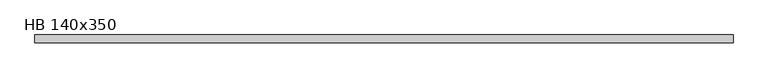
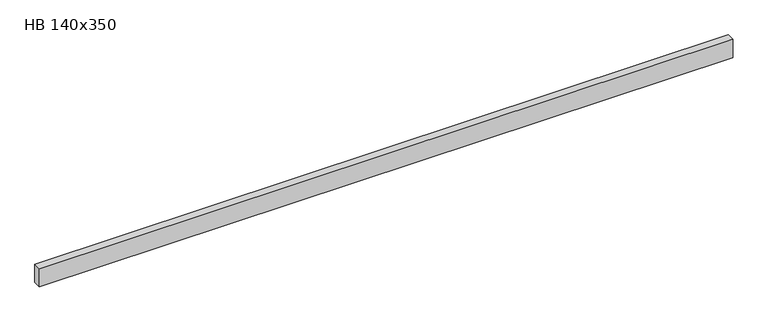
"""IFC4 building model written with IfcOpenShell, lengths in millimetres: beam geometry, NLRS_28_SF_LIB_balk hout gelamineerd_generiek_ISR : HB 140x350."""

from ifc_helpers import new_model, si_unit, frame, origin, place, context, project, spatial, polyline, outline, extrude, source, transform, mapped, element, save


def hb_140x350_634b48ad(model_context):
    return source(origin(), model_context, "Body", "SweptSolid", [
        extrude(outline(polyline([(6303.0, 70.0), (6303.0, -70.0), (-6314.0965325, -70.0), (-6314.0965325, 70.0), (6303.0, 70.0)])), frame((0.0, 0.0, -175.0), z_axis=(0.0, 0.0, 1.0), x_axis=(1.0, 0.0, 0.0)), (0.0, 0.0, 1.0), 350.0),
    ])


if __name__ == "__main__":
    model = new_model("IFC4")
    model_context = context("Model", 3, world=origin())
    ifc_project = project(units=[si_unit("LENGTHUNIT", "METRE", prefix="MILLI")], contexts=[model_context])
    site = spatial("IfcSite", under=ifc_project)
    building = spatial("IfcBuilding", under=site)
    placement = place(None, origin())
    hb_140x350_shape = hb_140x350_634b48ad(model_context)
    element("IfcBeam", 1, ObjectType="NLRS_28_SF_LIB_balk hout gelamineerd_generiek_ISR : HB 140x350", at=placement, inside=building, context=model_context, shape_type="MappedRepresentation", body=[
        mapped(hb_140x350_shape, transform((0.0, 0.0, 0.0), x_axis=(1.0, 0.0, 0.0), y_axis=(0.0, 1.0, 0.0), z_axis=(0.0, 0.0, 1.0))),
    ])
    save(model, "model.ifc")
